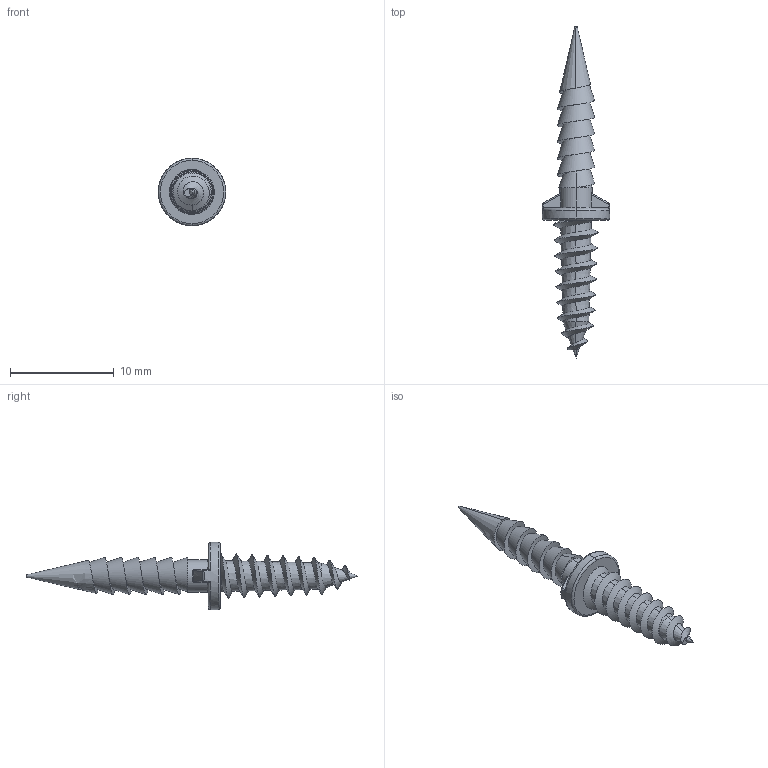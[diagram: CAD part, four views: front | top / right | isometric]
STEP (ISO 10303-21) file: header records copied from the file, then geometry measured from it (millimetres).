
FILE_DESCRIPTION (( 'STEP AP203' ), '1' );
FILE_NAME ('12.20.050-0 Double Pointed Steel Nail, ø4.0 x 13 x 18mm.STEP', '2025-02-14T05:54:15', ( '' ), ( '' ), 'SwSTEP 2.0', 'SolidWorks 2024', '' );
FILE_SCHEMA (( 'CONFIG_CONTROL_DESIGN' ));
Length unit declared in the file: millimetre
Products named in the file (1): 12.20.050-0 Double Pointed Steel Nail, ø4.0 x 13 x 18mm
Bounding box: 6.5 x 32 x 6.5 mm (x, y, z)
Volume: 222.1 mm3; surface area: 447 mm2
Topology: 1 solids, 1 shells, 103 faces, 263 edges, 151 vertices
Faces by surface type: bspline 30, cone 27, cylinder 16, torus 14, plane 12, sphere 4
Entity records: 8356 total; most frequent: CARTESIAN_POINT 6144, ORIENTED_EDGE 506, DIRECTION 373, EDGE_CURVE 253, AXIS2_PLACEMENT_3D 158, VERTEX_POINT 151, EDGE_LOOP 104, FACE_OUTER_BOUND 103
